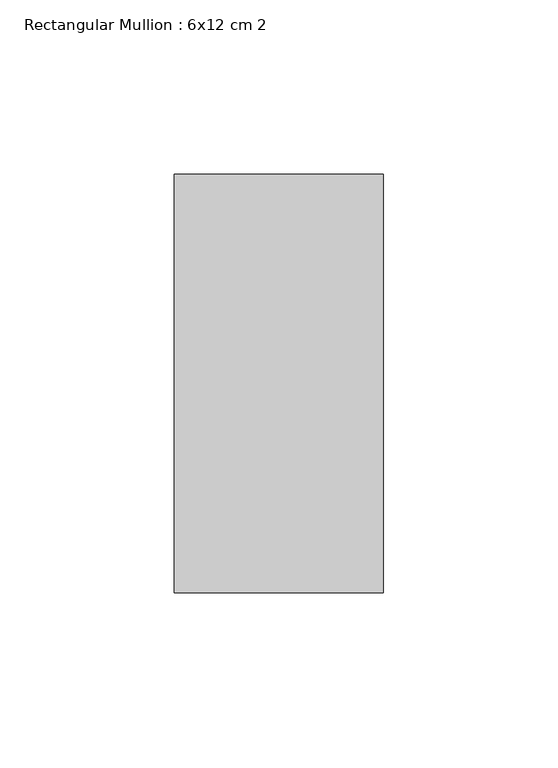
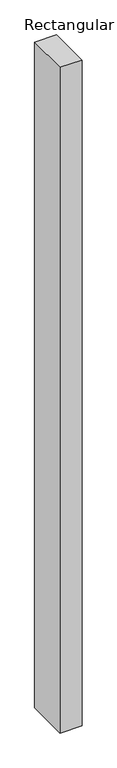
"""IFC4 building model written with IfcOpenShell, lengths in millimetres: member geometry, Rectangular Mullion : 6x12 cm 2."""

from ifc_helpers import new_model, si_unit, frame, origin, place, context, project, spatial, polyline, outline, extrude, source, transform, mapped, element, save


def rectangular_mullion_6x12_cm_2_97072278(model_context):
    return source(origin(), model_context, "Body", "SweptSolid", [
        extrude(outline(polyline([(0.0, 205.0), (0.0, 85.0), (-60.0, 85.0), (-60.0, 205.0), (0.0, 205.0)])), frame((0.0, 0.0, -1918.7573402), z_axis=(0.0, 0.0, 1.0), x_axis=(1.0, 0.0, 0.0)), (0.0, 0.0, 1.0), 1918.7573402),
    ])


if __name__ == "__main__":
    model = new_model("IFC4")
    model_context = context("Model", 3, world=origin())
    ifc_project = project(units=[si_unit("LENGTHUNIT", "METRE", prefix="MILLI")], contexts=[model_context])
    site = spatial("IfcSite", under=ifc_project)
    building = spatial("IfcBuilding", under=site)
    placement = place(None, origin())
    rectangular_mullion_6x12_cm_2_shape = rectangular_mullion_6x12_cm_2_97072278(model_context)
    element("IfcMember", 1, ObjectType="Rectangular Mullion : 6x12 cm 2", at=placement, inside=building, context=model_context, shape_type="MappedRepresentation", body=[
        mapped(rectangular_mullion_6x12_cm_2_shape, transform((0.0, 0.0, 0.0), x_axis=(1.0, 0.0, 0.0), y_axis=(0.0, 1.0, 0.0), z_axis=(0.0, 0.0, 1.0))),
    ])
    save(model, "model.ifc")
